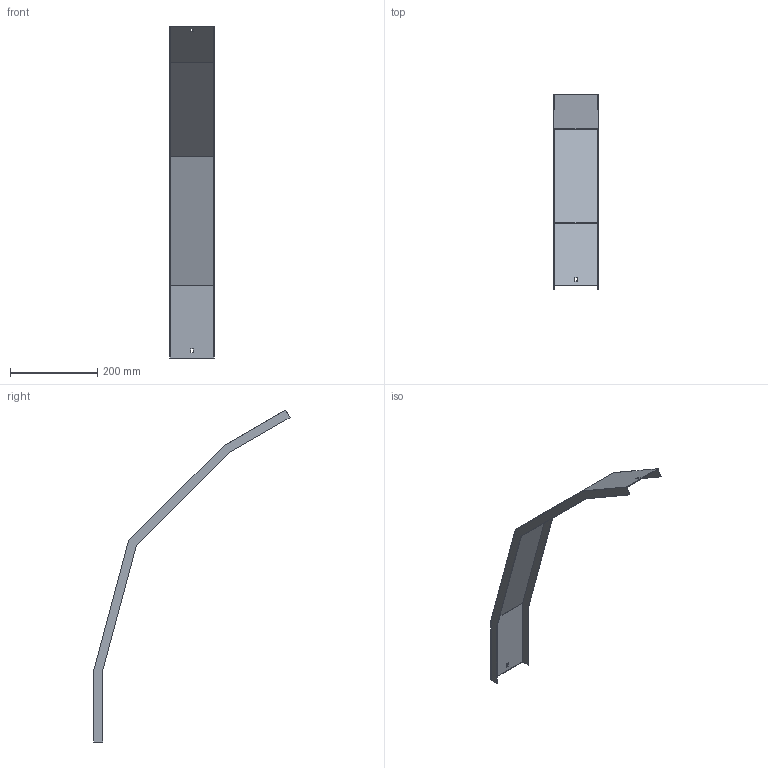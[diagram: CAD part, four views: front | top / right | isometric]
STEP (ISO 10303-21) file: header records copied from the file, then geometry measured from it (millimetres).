
FILE_DESCRIPTION (( 'STEP AP214' ), '1' );
FILE_NAME ('41N5D100.step', '2025-02-21T10:37:59', ( '' ), ( '' ), 'SwSTEP 2.0', 'SolidWorks 2023', '' );
FILE_SCHEMA (( 'AUTOMOTIVE_DESIGN' ));
Length unit declared in the file: millimetre
Products named in the file (1): 41N5D100
Bounding box: 103 x 449.97 x 762.06 mm (x, y, z)
Volume: 197570 mm3; surface area: 266714.1 mm2
Topology: 1 solids, 1 shells, 30 faces, 84 edges, 56 vertices
Faces by surface type: plane 30
Entity records: 979 total; most frequent: CARTESIAN_POINT 171, ORIENTED_EDGE 168, DIRECTION 146, EDGE_CURVE 84, VECTOR 84, LINE 84, VERTEX_POINT 56, EDGE_LOOP 34
